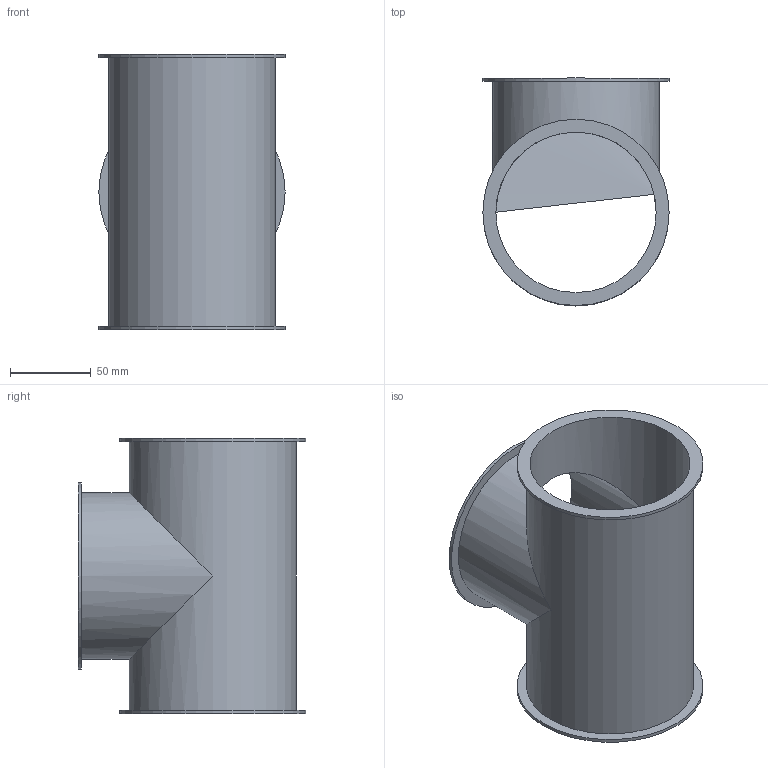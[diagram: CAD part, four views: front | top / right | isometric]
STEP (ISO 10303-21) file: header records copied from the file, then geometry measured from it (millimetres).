
FILE_DESCRIPTION((''),'2;1');
FILE_NAME('U:\Wolfgang\Marcel-3D\fertig\Kapitel 4\1021039.stp','2011-04-21T08:26:30',('TK1'),(''),'Autodesk Inventor 2010','Autodesk Inventor 2010','');
FILE_SCHEMA(('AUTOMOTIVE_DESIGN { 1 0 10303 214 1 1 1 1 }'));
Length unit declared in the file: millimetre
Products named in the file (1): 1021039
Bounding box: 115 x 140.5 x 170 mm (x, y, z)
Volume: 132072.5 mm3; surface area: 134191.9 mm2
Topology: 1 solids, 1 shells, 13 faces, 26 edges, 17 vertices
Faces by surface type: cylinder 7, plane 6
Full cylindrical faces by diameter (mm): 99 x2, 103 x2, 115 x3
Entity records: 328 total; most frequent: DIRECTION 60, CARTESIAN_POINT 46, ORIENTED_EDGE 32, AXIS2_PLACEMENT_3D 30, EDGE_LOOP 28, VERTEX_POINT 16, EDGE_CURVE 16, FACE_BOUND 15
